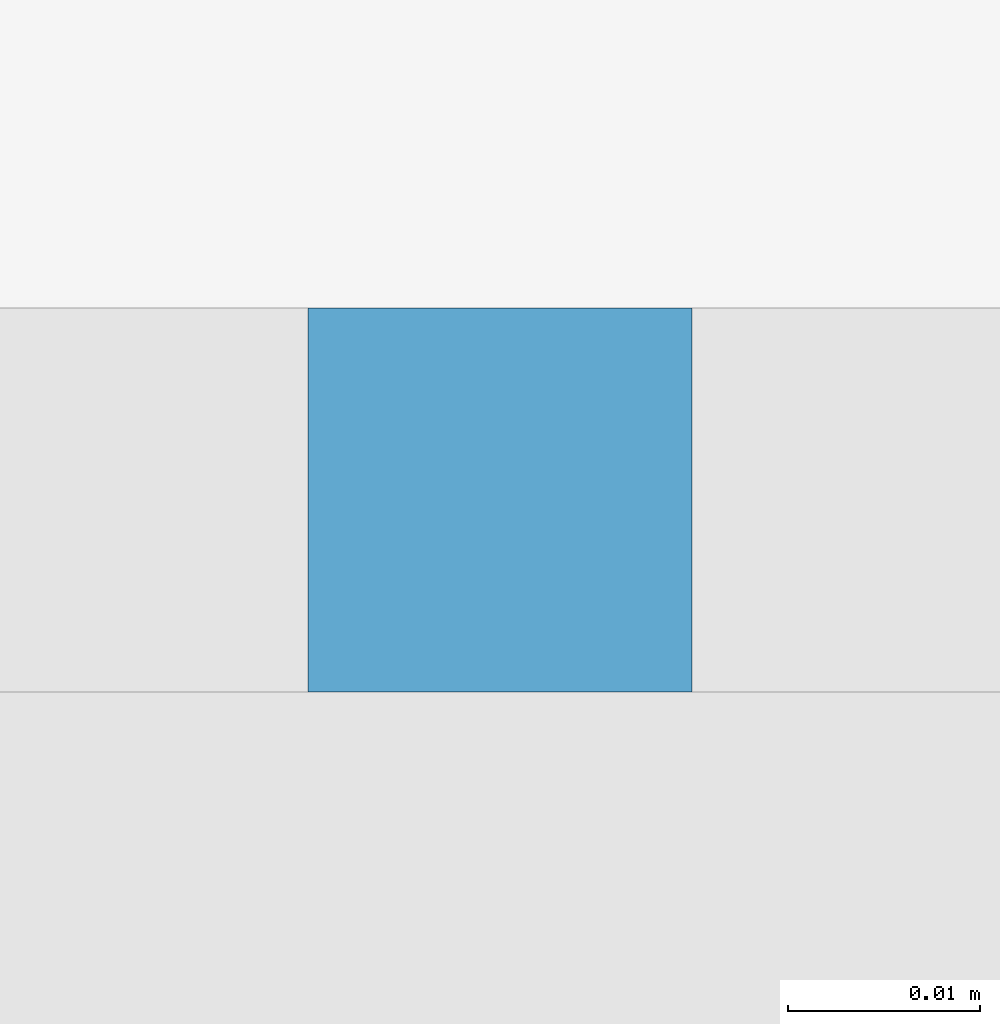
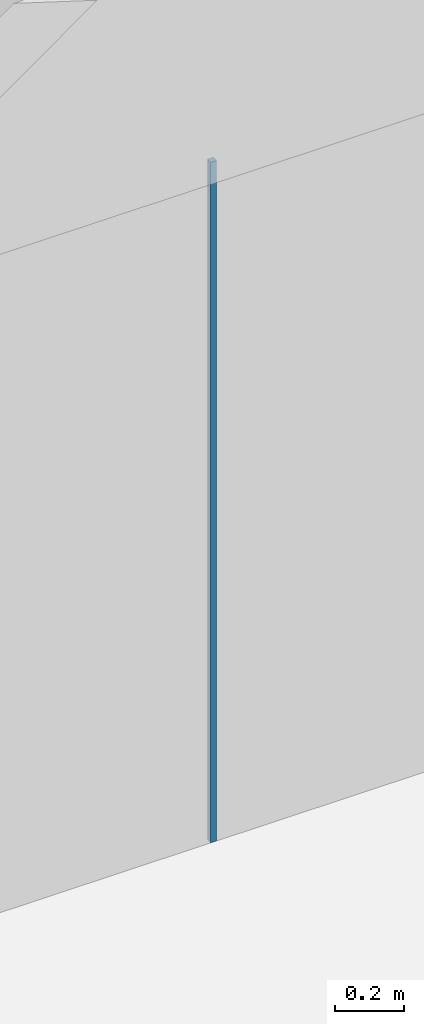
# One storey, part 6 of 46: 1 member, 1 element without a shape of its own.
"""IFC2X3 building model written with IfcOpenShell, lengths in millimetres."""

from ifc_helpers import new_model, entity, si_unit, converted_unit, derived_unit, direction, frame, origin, origin_2d_with_axis, place, context, subcontext, project, spatial, rectangle, extrude, source, transform, mapped, material, type_object, type_shapes, element, aggregate, save


model = new_model("IFC2X3")

# Units and contexts
model_context = context("Model", 3, precision=0.01, world=origin(), true_north=direction((6.12303176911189e-17, 1.0)))
body_context = subcontext(model_context, "Body", "Model", "MODEL_VIEW")
ifc_project = project(units=[si_unit("LENGTHUNIT", "METRE", prefix="MILLI"), si_unit("AREAUNIT", "SQUARE_METRE"), si_unit("VOLUMEUNIT", "CUBIC_METRE"), converted_unit("PLANEANGLEUNIT", "DEGREE", entity("IfcRatioMeasure", 0.0174532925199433), si_unit("PLANEANGLEUNIT", "RADIAN"), dimensions=[0, 0, 0, 0, 0, 0, 0]), si_unit("MASSUNIT", "GRAM", prefix="KILO"), derived_unit("MASSDENSITYUNIT", [(si_unit("MASSUNIT", "GRAM", prefix="KILO"), 1), (si_unit("LENGTHUNIT", "METRE"), -3)]), si_unit("TIMEUNIT", "SECOND"), si_unit("FREQUENCYUNIT", "HERTZ"), si_unit("THERMODYNAMICTEMPERATUREUNIT", "DEGREE_CELSIUS"), derived_unit("THERMALTRANSMITTANCEUNIT", [(si_unit("MASSUNIT", "GRAM", prefix="KILO"), 1), (si_unit("THERMODYNAMICTEMPERATUREUNIT", "KELVIN"), -1), (si_unit("TIMEUNIT", "SECOND"), -3)]), derived_unit("VOLUMETRICFLOWRATEUNIT", [(si_unit("LENGTHUNIT", "METRE"), 3), (si_unit("TIMEUNIT", "SECOND"), -1)]), si_unit("ELECTRICCURRENTUNIT", "AMPERE"), si_unit("ELECTRICVOLTAGEUNIT", "VOLT"), si_unit("POWERUNIT", "WATT"), si_unit("FORCEUNIT", "NEWTON", prefix="KILO"), si_unit("ILLUMINANCEUNIT", "LUX"), si_unit("LUMINOUSFLUXUNIT", "LUMEN"), si_unit("LUMINOUSINTENSITYUNIT", "CANDELA"), derived_unit("USERDEFINED", [(si_unit("MASSUNIT", "GRAM", prefix="KILO"), -1), (si_unit("LENGTHUNIT", "METRE"), -2), (si_unit("TIMEUNIT", "SECOND"), 3), (si_unit("LUMINOUSFLUXUNIT", "LUMEN"), 1)]), derived_unit("LINEARVELOCITYUNIT", [(si_unit("LENGTHUNIT", "METRE"), 1), (si_unit("TIMEUNIT", "SECOND"), -1)]), si_unit("PRESSUREUNIT", "PASCAL"), derived_unit("USERDEFINED", [(si_unit("LENGTHUNIT", "METRE"), -2), (si_unit("MASSUNIT", "GRAM", prefix="KILO"), 1), (si_unit("TIMEUNIT", "SECOND"), -2)])], contexts=[model_context])

# Site, building, storey
site_placement = place(None, frame((-151.875543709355, 2715.0, 0.0)))
site = spatial("IfcSite", under=ifc_project, at=site_placement, Name="Surface", CompositionType="ELEMENT")
building_placement = place(site_placement, origin())
building = spatial("IfcBuilding", under=site, at=building_placement, CompositionType="ELEMENT")
storey_placement = place(building_placement, frame((0.0, 0.0, 10060.0)))
storey = spatial("IfcBuildingStorey", under=building, at=storey_placement, Name="4 korrus", CompositionType="ELEMENT", Elevation=10060.0000000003)

# Curtain wall, member
curtain_wall_type = type_object("IfcCurtainWallType", Name="Curtain Wall:Klaassein KLS-28", PredefinedType="NOTDEFINED")
curtain_wall_placement = place(storey_placement, frame((0.0, 0.0, -10060.0)))
curtain_wall = element("IfcCurtainWall", 1, at=curtain_wall_placement, inside=storey, type_object=curtain_wall_type, Name="Curtain Wall:Klaassein KLS-28", ObjectType="Curtain Wall:Klaassein KLS-28")
ifc_material = material(Name="__Uks_hele tamm")
member_type = type_object("IfcMemberType", Name="20 x 20mm", PredefinedType="MEMBER")
shared_shape = source(origin(), body_context, "Body", "SweptSolid", [
    extrude(rectangle(XDim=20.0, YDim=20.0, at=origin_2d_with_axis()), frame((0.0, 0.0, -2400.0), z_axis=(0.0, 0.0, 1.0), x_axis=(0.0, -1.0, 0.0)), (0.0, 0.0, 1.0), 2400.0),
])
type_shapes(member_type, [shared_shape])
member_placement = place(storey_placement, frame((16093.8493550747, 9210.00115708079, 0.0), z_axis=(0.0, 0.0, -1.0), x_axis=(-1.0, 0.0, 0.0)))
member = element("IfcMember", 2, at=member_placement, type_object=member_type, material=ifc_material, Name="Rectangular Mullion:20 x 20mm", ObjectType="20 x 20mm", context=body_context, shape_type="MappedRepresentation", body=[
    mapped(shared_shape, transform((0.0, 0.0, 0.0), scale=1.0)),
])
aggregate(curtain_wall, [member])

save(model, "model.ifc")
